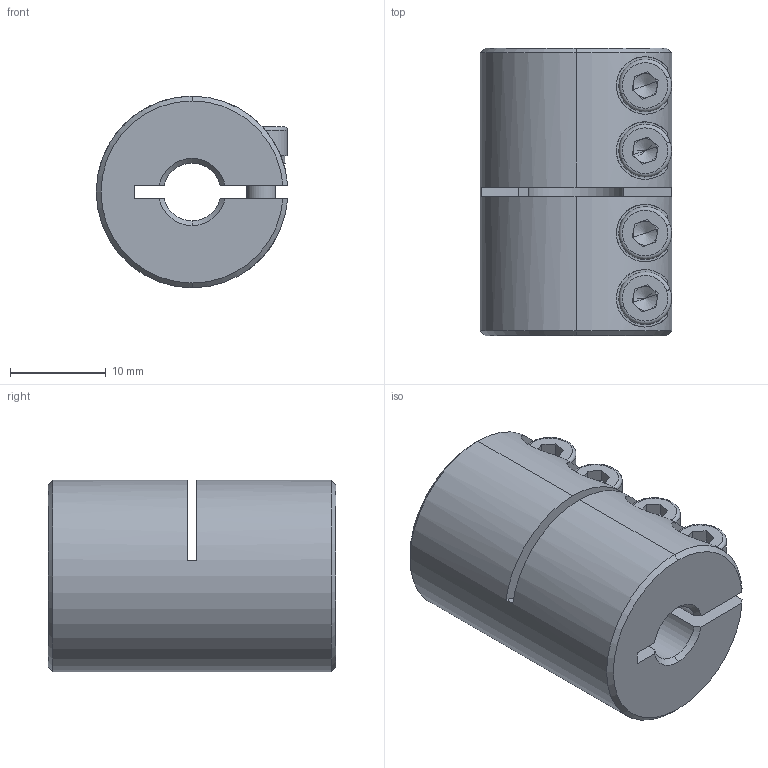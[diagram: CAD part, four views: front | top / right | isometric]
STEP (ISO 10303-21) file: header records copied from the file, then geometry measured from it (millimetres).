
FILE_DESCRIPTION (( 'STEP AP203' ), '1' );
FILE_NAME ('LL-B-D20L30-6-10.STEP', '2021-11-05T03:13:13', ( '' ), ( '' ), 'SwSTEP 2.0', 'SolidWorks 2018', '' );
FILE_SCHEMA (( 'CONFIG_CONTROL_DESIGN' ));
Length unit declared in the file: millimetre
Products named in the file (1): LL-B-D20L30-6-10
Bounding box: 19.98 x 30 x 20 mm (x, y, z)
Volume: 7179.8 mm3; surface area: 4555 mm2
Topology: 1 solids, 1 shells, 178 faces, 459 edges, 287 vertices
Faces by surface type: plane 89, cylinder 61, cone 20, torus 8
Entity records: 5821 total; most frequent: CARTESIAN_POINT 1349, DIRECTION 958, ORIENTED_EDGE 902, EDGE_CURVE 451, AXIS2_PLACEMENT_3D 368, VERTEX_POINT 287, LINE 222, VECTOR 222
